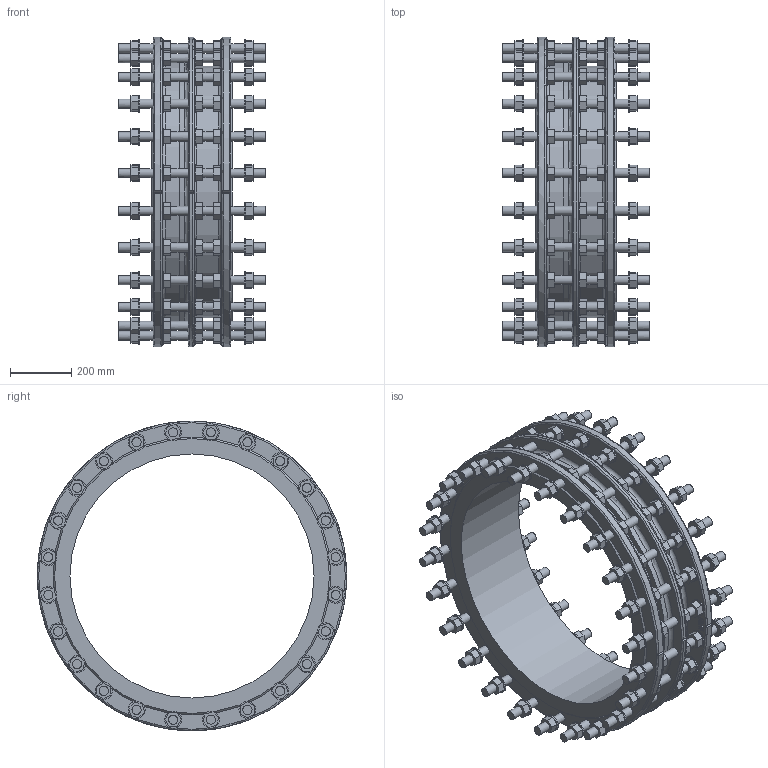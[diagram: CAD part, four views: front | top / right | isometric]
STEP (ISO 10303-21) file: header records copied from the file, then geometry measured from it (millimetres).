
FILE_DESCRIPTION (( 'STEP AP203' ), '1' );
FILE_NAME ('O_265_911_DN800_0XXXXX01_L=265_REV01.step', '2024-12-12T08:25:35', ( '' ), ( '' ), 'SwSTEP 2.0', 'SolidWorks 2022', '' );
FILE_SCHEMA (( 'CONFIG_CONTROL_DESIGN' ));
Length unit declared in the file: millimetre
Products named in the file (1): O_265_911_DN800_0XXXXX01_L=265_REV01
Bounding box: 480 x 1014.97 x 1015 mm (x, y, z)
Volume: 48478400.2 mm3; surface area: 4157050.8 mm2
Topology: 1 solids, 1 shells, 1476 faces, 3594 edges, 2371 vertices
Faces by surface type: plane 1188, cylinder 276, torus 9, cone 3
Full cylindrical faces by diameter (mm): 30 x144, 56 x120, 800 x1, 824 x2, 864 x1
Entity records: 41370 total; most frequent: CARTESIAN_POINT 7988, DIRECTION 6843, ORIENTED_EDGE 6270, EDGE_CURVE 3135, LINE 2285, VECTOR 2285, AXIS2_PLACEMENT_3D 2279, VERTEX_POINT 2192
